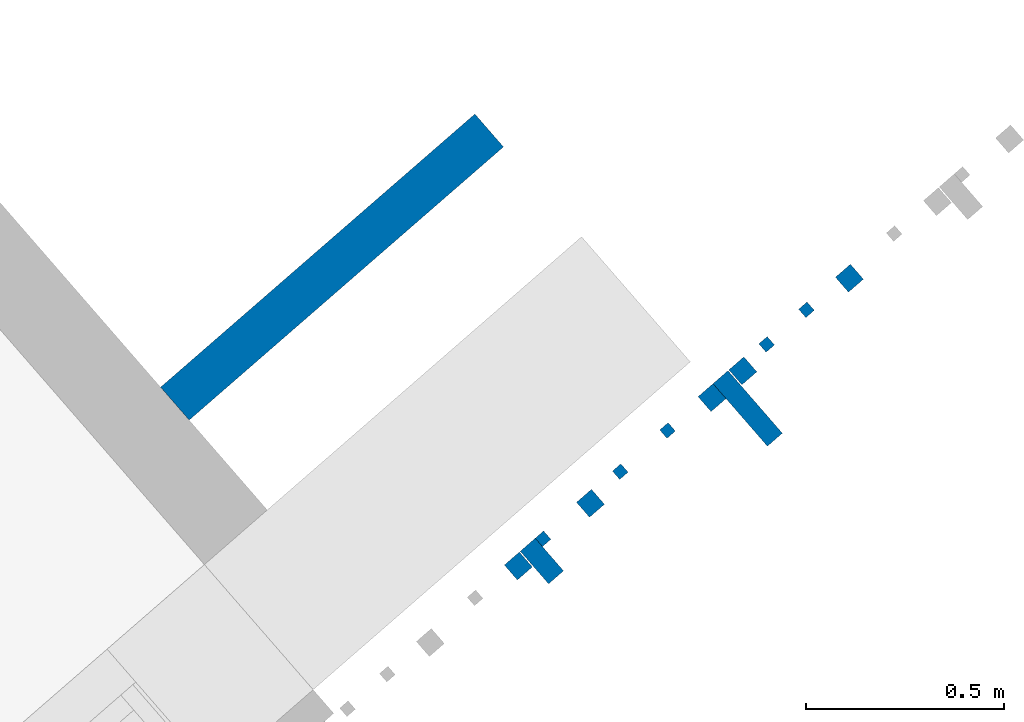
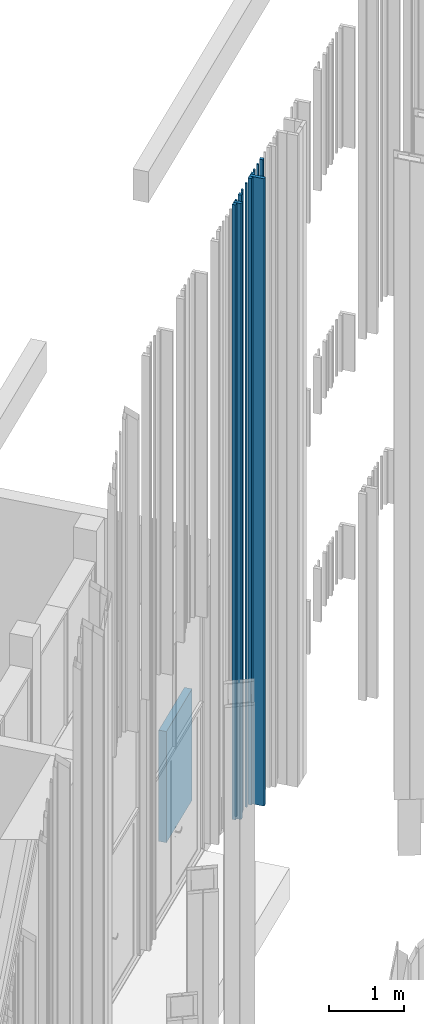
# One storey, part 210 of 390: 13 walls.
"""IFC2X3 building model written with IfcOpenShell, lengths in millimetres."""

from ifc_helpers import new_model, entity, si_unit, converted_unit, derived_unit, money_unit, direction, frame, origin_with_axes, place, context, subcontext, project, spatial, faceted_brep, material, material_list, type_object, element, save


model = new_model("IFC2X3")

# Units and contexts
model_context = context("Model", 3, precision=1e-05, world=origin_with_axes(), true_north=direction((0.0, 1.0)))
body_context = subcontext(model_context, "Body", "Model", "MODEL_VIEW")
ifc_project = project(units=[si_unit("LENGTHUNIT", "METRE", prefix="MILLI"), si_unit("AREAUNIT", "SQUARE_METRE"), si_unit("VOLUMEUNIT", "CUBIC_METRE"), converted_unit("PLANEANGLEUNIT", "DEGREE", entity("IfcPlaneAngleMeasure", 0.0174532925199), si_unit("PLANEANGLEUNIT", "RADIAN"), dimensions=[0, 0, 0, 0, 0, 0, 0]), si_unit("SOLIDANGLEUNIT", "STERADIAN"), money_unit("EUR"), converted_unit("TIMEUNIT", "Year", entity("IfcTimeMeasure", 31556926.0), si_unit("TIMEUNIT", "SECOND"), dimensions=[0, 0, 1, 0, 0, 0, 0]), si_unit("MASSUNIT", "GRAM", prefix="KILO"), si_unit("THERMODYNAMICTEMPERATUREUNIT", "DEGREE_CELSIUS"), si_unit("LUMINOUSINTENSITYUNIT", "LUMEN"), si_unit("ENERGYUNIT", "JOULE", prefix="MEGA"), derived_unit("THERMALCONDUCTANCEUNIT", [(si_unit("POWERUNIT", "WATT"), 1), (si_unit("LENGTHUNIT", "METRE"), -1), (si_unit("THERMODYNAMICTEMPERATUREUNIT", "KELVIN"), -1)]), derived_unit("SPECIFICHEATCAPACITYUNIT", [(si_unit("ENERGYUNIT", "JOULE"), 1), (si_unit("MASSUNIT", "GRAM", prefix="KILO"), -1), (si_unit("THERMODYNAMICTEMPERATUREUNIT", "KELVIN"), -1)]), derived_unit("MASSDENSITYUNIT", [(si_unit("MASSUNIT", "GRAM", prefix="KILO"), 1), (si_unit("VOLUMEUNIT", "CUBIC_METRE"), -1)])], contexts=[model_context])

# Site, building, storey
site_placement = place(None, origin_with_axes())
site = spatial("IfcSite", under=ifc_project, at=site_placement, Name="Site", CompositionType="ELEMENT")
building_placement = place(site_placement, origin_with_axes())
building = spatial("IfcBuilding", under=site, at=building_placement, Name="Building", CompositionType="ELEMENT")
storey_placement = place(building_placement, origin_with_axes())
storey = spatial("IfcBuildingStorey", under=building, at=storey_placement, Name="1 korrus", CompositionType="ELEMENT", Elevation=0.0)

# Walls
ifc_material_1 = material(Name="Site specified")
wall_type_1 = type_object("IfcWallType", Name="Puitfassaadi ribistik", PredefinedType="NOTDEFINED")
wall_1_placement = place(storey_placement, frame((149841.414738, 74885.7712607, -308.883447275), z_axis=(0.0, 0.0, 1.0), x_axis=(-0.754709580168, -0.656059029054, 0.0)))
element("IfcWall", 1, at=wall_1_placement, inside=storey, type_object=wall_type_1, material=ifc_material_1, Name="Site specified", context=body_context, shape_type="Brep", body=[
    faceted_brep([(-25.0, -25.0, 10173.8834473), (-25.0, -25.0, 0.0), (25.0, -25.0, 0.0), (25.0, -25.0, 10173.8834473), (-25.0, 25.0, 10173.8834473), (-25.0, 25.0, 0.0), (25.0, 25.0, 0.0), (25.0, 25.0, 10173.8834473)], [[[0, 1, 2, 3]], [[4, 5, 1, 0]], [[2, 1, 5, 6]], [[3, 2, 6, 7]], [[4, 0, 3, 7]], [[7, 6, 5, 4]]]),
])
wall_2_placement = place(storey_placement, frame((149901.367242, 74952.4623197, -331.479731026), z_axis=(0.0, 0.0, 1.0), x_axis=(-0.754709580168, -0.656059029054, 0.0)))
element("IfcWall", 2, at=wall_2_placement, inside=storey, type_object=wall_type_1, material=ifc_material_1, Name="Site specified", context=body_context, shape_type="Brep", body=[
    faceted_brep([(-14.0, -14.0, 10196.479731), (-14.0, -14.0, 0.0), (14.0, -14.0, 0.0), (14.0, -14.0, 10196.479731), (-14.0, 14.0, 10196.479731), (-14.0, 14.0, 0.0), (14.0, 14.0, 0.0), (14.0, 14.0, 10196.479731)], [[[0, 1, 2, 3]], [[4, 5, 1, 0]], [[2, 1, 5, 6]], [[3, 2, 6, 7]], [[4, 0, 3, 7]], [[7, 6, 5, 4]]]),
])
wall_3_placement = place(storey_placement, frame((150110.091349, 75119.328275, -412.01520388), z_axis=(0.0, 0.0, 1.0), x_axis=(-0.754709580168, -0.656059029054, 0.0)))
element("IfcWall", 3, at=wall_3_placement, inside=storey, type_object=wall_type_1, material=ifc_material_1, Name="Site specified", context=body_context, shape_type="Brep", body=[
    faceted_brep([(-25.0, -25.0, 10277.0152039), (-25.0, -25.0, 0.0), (25.0, -25.0, 0.0), (25.0, -25.0, 10277.0152039), (-25.0, 25.0, 10277.0152039), (-25.0, 25.0, 0.0), (25.0, 25.0, 0.0), (25.0, 25.0, 10277.0152039)], [[[0, 1, 2, 3]], [[4, 5, 1, 0]], [[2, 1, 5, 6]], [[3, 2, 6, 7]], [[4, 0, 3, 7]], [[7, 6, 5, 4]]]),
])
wall_4_placement = place(storey_placement, frame((150001.743616, 75039.7181705, -370.00929178), z_axis=(0.0, 0.0, 1.0), x_axis=(-0.754709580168, -0.656059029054, 0.0)))
element("IfcWall", 4, at=wall_4_placement, inside=storey, type_object=wall_type_1, material=ifc_material_1, Name="Site specified", context=body_context, shape_type="Brep", body=[
    faceted_brep([(-14.0, -14.0, 10235.0092918), (-14.0, -14.0, 0.0), (14.0, -14.0, 0.0), (14.0, -14.0, 10235.0092918), (-14.0, 14.0, 10235.0092918), (-14.0, 14.0, 0.0), (14.0, 14.0, 0.0), (14.0, 14.0, 10235.0092918)], [[[0, 1, 2, 3]], [[4, 5, 1, 0]], [[2, 1, 5, 6]], [[3, 2, 6, 7]], [[4, 0, 3, 7]], [[7, 6, 5, 4]]]),
])
wall_5_placement = place(storey_placement, frame((149532.314257, 74631.6494544, -189.818413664), z_axis=(0.0, 0.0, 1.0), x_axis=(-0.754709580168, -0.656059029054, 0.0)))
element("IfcWall", 5, at=wall_5_placement, inside=storey, type_object=wall_type_1, material=ifc_material_1, Name="Site specified", context=body_context, shape_type="Brep", body=[
    faceted_brep([(-14.0, -14.0, 10054.8184137), (-14.0, -14.0, 0.0), (14.0, -14.0, 0.0), (14.0, -14.0, 10054.8184137), (-14.0, 14.0, 10054.8184137), (-14.0, 14.0, 0.0), (14.0, 14.0, 0.0), (14.0, 14.0, 10054.8184137)], [[[0, 1, 2, 3]], [[4, 5, 1, 0]], [[2, 1, 5, 6]], [[3, 2, 6, 7]], [[4, 0, 3, 7]], [[7, 6, 5, 4]]]),
])
wall_6_placement = place(storey_placement, frame((149337.599185, 74462.386225, -115.076859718), z_axis=(0.0, 0.0, 1.0), x_axis=(-0.754709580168, -0.656059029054, 0.0)))
element("IfcWall", 6, at=wall_6_placement, inside=storey, type_object=wall_type_1, material=ifc_material_1, Name="Site specified", context=body_context, shape_type="Brep", body=[
    faceted_brep([(-14.0, -14.0, 9980.07685972), (-14.0, -14.0, 0.0), (14.0, -14.0, 0.0), (14.0, -14.0, 9980.07685972), (-14.0, 14.0, 9980.07685972), (-14.0, 14.0, 0.0), (14.0, 14.0, 0.0), (14.0, 14.0, 9980.07685972)], [[[0, 1, 2, 3]], [[4, 5, 1, 0]], [[2, 1, 5, 6]], [[3, 2, 6, 7]], [[4, 0, 3, 7]], [[7, 6, 5, 4]]]),
])
wall_7_placement = place(storey_placement, frame((149334.735902, 74406.2341848, -106.965373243), z_axis=(0.0, 0.0, 1.0), x_axis=(-0.754709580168, -0.656059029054, 0.0)))
element("IfcWall", 7, at=wall_7_placement, inside=storey, type_object=wall_type_1, material=ifc_material_1, Name="Site specified", context=body_context, shape_type="Brep", body=[
    faceted_brep([(-25.0, -54.5, 9971.96537324), (-25.0, -54.5, 0.0), (25.0, -54.5, 0.0), (25.0, -54.5, 9971.96537324), (-25.0, 54.5, 9971.96537324), (-25.0, 54.5, 0.0), (25.0, 54.5, 0.0), (25.0, 54.5, 9971.96537324)], [[[0, 1, 2, 3]], [[4, 5, 1, 0]], [[2, 1, 5, 6]], [[3, 2, 6, 7]], [[4, 0, 3, 7]], [[7, 6, 5, 4]]]),
])
wall_8_placement = place(storey_placement, frame((149853.571823, 74791.0007205, -293.529562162), z_axis=(0.0, 0.0, 1.0), x_axis=(-0.754709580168, -0.656059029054, 0.0)))
element("IfcWall", 8, at=wall_8_placement, inside=storey, type_object=wall_type_1, material=ifc_material_1, Name="Site specified", context=body_context, shape_type="Brep", body=[
    faceted_brep([(-25.0, -104.5, 10158.5295622), (-25.0, -104.5, 0.0), (25.0, -104.5, 0.0), (25.0, -104.5, 10158.5295622), (-25.0, 104.5, 10158.5295622), (-25.0, 104.5, 0.0), (25.0, 104.5, 0.0), (25.0, 104.5, 10158.5295622)], [[[0, 1, 2, 3]], [[4, 5, 1, 0]], [[2, 1, 5, 6]], [[3, 2, 6, 7]], [[4, 0, 3, 7]], [[7, 6, 5, 4]]]),
])
wall_9_placement = place(storey_placement, frame((149457.267562, 74551.8372149, -161.428211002), z_axis=(0.0, 0.0, 1.0), x_axis=(-0.754709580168, -0.656059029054, 0.0)))
element("IfcWall", 9, at=wall_9_placement, inside=storey, type_object=wall_type_1, material=ifc_material_1, Name="Site specified", context=body_context, shape_type="Brep", body=[
    faceted_brep([(-25.0, -25.0, 10026.428211), (-25.0, -25.0, 0.0), (25.0, -25.0, 0.0), (25.0, -25.0, 10026.428211), (-25.0, 25.0, 10026.428211), (-25.0, 25.0, 0.0), (25.0, 25.0, 0.0), (25.0, 25.0, 10026.428211)], [[[0, 1, 2, 3]], [[4, 5, 1, 0]], [[2, 1, 5, 6]], [[3, 2, 6, 7]], [[4, 0, 3, 7]], [[7, 6, 5, 4]]]),
])
wall_10_placement = place(storey_placement, frame((149651.558371, 74735.306781, -235.590373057), z_axis=(0.0, 0.0, 1.0), x_axis=(-0.754709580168, -0.656059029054, 0.0)))
element("IfcWall", 10, at=wall_10_placement, inside=storey, type_object=wall_type_1, material=ifc_material_1, Name="Site specified", context=body_context, shape_type="Brep", body=[
    faceted_brep([(-14.0, -14.0, 10100.5903731), (-14.0, -14.0, 0.0), (14.0, -14.0, 0.0), (14.0, -14.0, 10100.5903731), (-14.0, 14.0, 10100.5903731), (-14.0, 14.0, 0.0), (14.0, 14.0, 0.0), (14.0, 14.0, 10100.5903731)], [[[0, 1, 2, 3]], [[4, 5, 1, 0]], [[2, 1, 5, 6]], [[3, 2, 6, 7]], [[4, 0, 3, 7]], [[7, 6, 5, 4]]]),
])
wall_11_placement = place(storey_placement, frame((149275.382553, 74393.7269889, -91.6114881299), z_axis=(0.0, 0.0, 1.0), x_axis=(-0.754709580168, -0.656059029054, 0.0)))
element("IfcWall", 11, at=wall_11_placement, inside=storey, type_object=wall_type_1, material=ifc_material_1, Name="Site specified", context=body_context, shape_type="Brep", body=[
    faceted_brep([(-25.0, -25.0, 9956.61148813), (-25.0, -25.0, 0.0), (25.0, -25.0, 0.0), (25.0, -25.0, 9956.61148813), (-25.0, 25.0, 9956.61148813), (-25.0, 25.0, 0.0), (25.0, 25.0, 0.0), (25.0, 25.0, 9956.61148813)], [[[0, 1, 2, 3]], [[4, 5, 1, 0]], [[2, 1, 5, 6]], [[3, 2, 6, 7]], [[4, 0, 3, 7]], [[7, 6, 5, 4]]]),
])
wall_12_placement = place(storey_placement, frame((149763.679652, 74818.1971807, -279.044764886), z_axis=(0.0, 0.0, 1.0), x_axis=(-0.754709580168, -0.656059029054, 0.0)))
element("IfcWall", 12, at=wall_12_placement, inside=storey, type_object=wall_type_1, material=ifc_material_1, Name="Site specified", context=body_context, shape_type="Brep", body=[
    faceted_brep([(-25.0, -25.0, 10144.0447649), (-25.0, -25.0, 0.0), (25.0, -25.0, 0.0), (25.0, -25.0, 10144.0447649), (-25.0, 25.0, 10144.0447649), (-25.0, 25.0, 0.0), (25.0, 25.0, 0.0), (25.0, 25.0, 10144.0447649)], [[[0, 1, 2, 3]], [[4, 5, 1, 0]], [[2, 1, 5, 6]], [[3, 2, 6, 7]], [[4, 0, 3, 7]], [[7, 6, 5, 4]]]),
])
ifc_material_2 = material(Name="Krohv - Lubjakivi")
ifc_material_3 = material(Name="Müüriplokk - Konstuktsioon")
ifc_material_list = material_list([ifc_material_2, ifc_material_3])
wall_type_2 = type_object("IfcWallType", Name="SS-08", PredefinedType="NOTDEFINED")
wall_13_placement = place(storey_placement, frame((148445.543548, 74761.5101142, -415.0), z_axis=(0.0, 0.0, 1.0), x_axis=(0.754709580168, 0.656059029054, 0.0)))
element("IfcWall", 13, at=wall_13_placement, inside=storey, type_object=wall_type_2, material=ifc_material_list, Name="SS-08", context=body_context, shape_type="Brep", body=[
    faceted_brep([(7.14862835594e-07, 100.0, 0.0), (1049.96442225, 100.0, 0.0), (1049.96442225, 100.0, 1800.0), (7.14862835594e-07, 100.0, 1800.0), (7.23133553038e-07, 110.0, 0.0), (1049.96442225, 110.0, 0.0), (1049.96442225, 110.0, 1800.0), (7.23133553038e-07, 110.0, 1800.0)], [[[0, 1, 2, 3]], [[4, 5, 1, 0]], [[5, 6, 2, 1]], [[3, 2, 6, 7]], [[4, 0, 3, 7]], [[7, 6, 5, 4]]]),
    faceted_brep([(6.32013552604e-07, 0.0, 0.0), (1049.96442225, 0.0, 0.0), (1049.96442225, 0.0, 1800.0), (6.32013552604e-07, 0.0, 1800.0), (7.14862835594e-07, 100.0, 0.0), (1049.96442225, 100.0, 0.0), (1049.96442225, 100.0, 1800.0), (7.14862835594e-07, 100.0, 1800.0)], [[[0, 1, 2, 3]], [[4, 5, 1, 0]], [[5, 6, 2, 1]], [[3, 2, 6, 7]], [[4, 0, 3, 7]], [[7, 6, 5, 4]]]),
])

save(model, "model.ifc")
